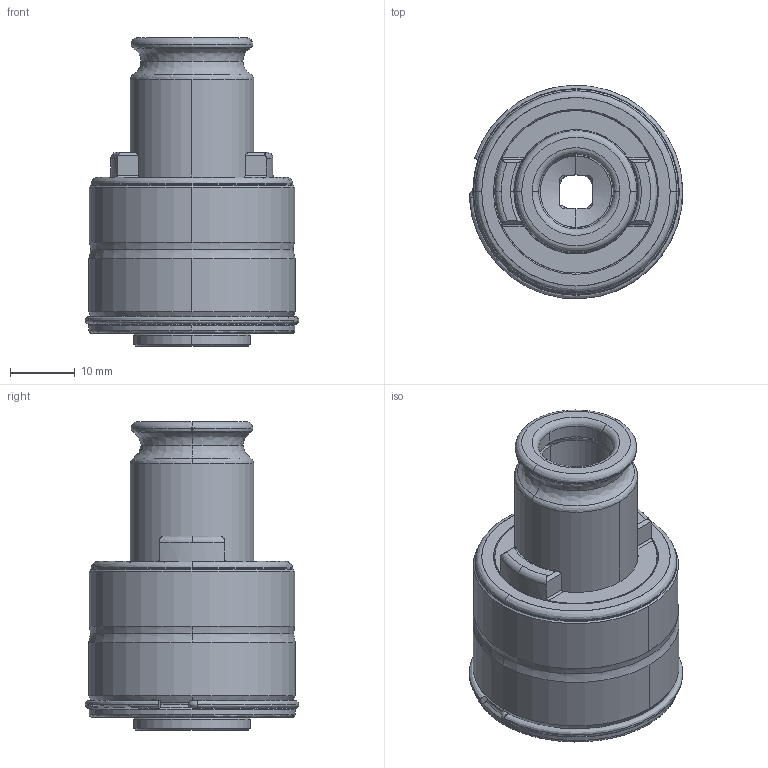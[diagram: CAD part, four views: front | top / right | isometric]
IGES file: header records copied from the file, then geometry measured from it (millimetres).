
Start section: 3D InterOp IGES (v. 2020 1.0.1), Spatial Corp. Copyright (c) 1999-2017.
Global section: file name: HWZ9791_3-12_6_5.igs; native system: Spatial Corp.; preprocessor: 3D InterOp GENERIC/IGES 3.0; author: Noname; organization: Noname; date: 20201019.103115; units: metre
Bounding box: 32.87 x 32.87 x 47.5 mm (x, y, z)
Surface area: 12211.9 mm2 (no closed solid volume)
Topology: 0 solids, 0 shells, 253 faces, 1441 edges, 1435 vertices
Faces by surface type: revolution 187, extrusion 63, bspline 3
